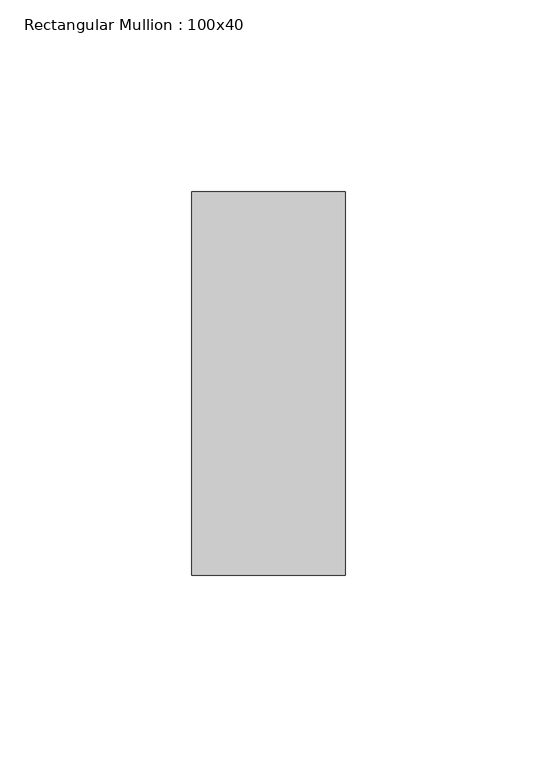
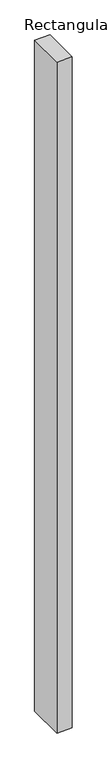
"""IFC4 building model written with IfcOpenShell, lengths in millimetres: member geometry, Rectangular Mullion : 100x40."""

from ifc_helpers import new_model, si_unit, frame, origin, place, context, project, spatial, polyline, outline, extrude, source, transform, mapped, element, save


def rectangular_mullion_100x40_9dc0828d(model_context):
    return source(origin(), model_context, "Body", "SweptSolid", [
        extrude(outline(polyline([(0.0, 50.0), (0.0, -50.0), (-40.0, -50.0), (-40.0, 50.0), (0.0, 50.0)])), frame((0.0, 0.0, -1844.5549543), z_axis=(0.0, 0.0, 1.0), x_axis=(1.0, 0.0, 0.0)), (0.0, 0.0, 1.0), 1844.5549543),
    ])


if __name__ == "__main__":
    model = new_model("IFC4")
    model_context = context("Model", 3, world=origin())
    ifc_project = project(units=[si_unit("LENGTHUNIT", "METRE", prefix="MILLI")], contexts=[model_context])
    site = spatial("IfcSite", under=ifc_project)
    building = spatial("IfcBuilding", under=site)
    placement = place(None, origin())
    rectangular_mullion_100x40_shape = rectangular_mullion_100x40_9dc0828d(model_context)
    element("IfcMember", 1, ObjectType="Rectangular Mullion : 100x40", at=placement, inside=building, context=model_context, shape_type="MappedRepresentation", body=[
        mapped(rectangular_mullion_100x40_shape, transform((0.0, 0.0, 0.0), x_axis=(1.0, 0.0, 0.0), y_axis=(0.0, 1.0, 0.0), z_axis=(0.0, 0.0, 1.0))),
    ])
    save(model, "model.ifc")
